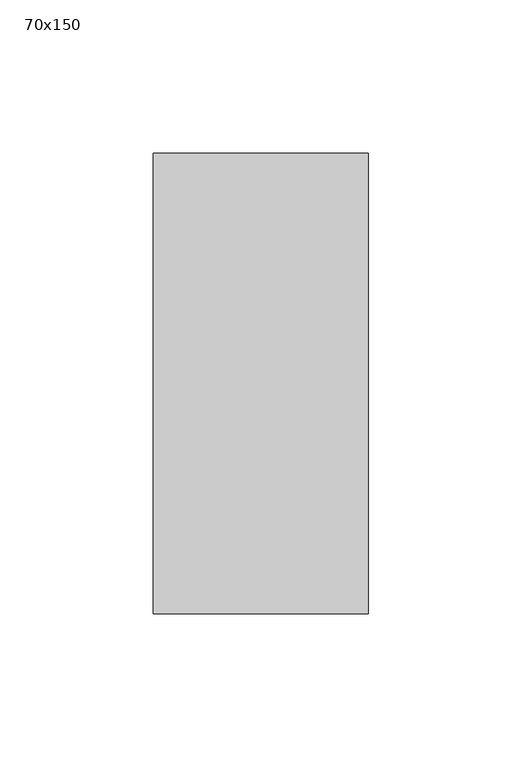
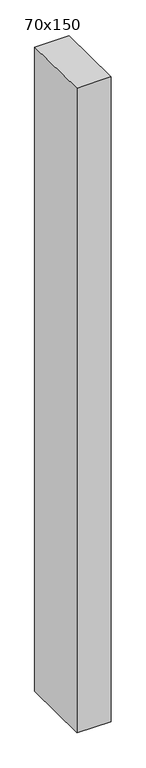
"""IFC4 building model written with IfcOpenShell, lengths in millimetres: member geometry, 長方形のマリオン : 70x150."""

from ifc_helpers import new_model, si_unit, frame, origin, place, context, project, spatial, polyline, outline, extrude, source, transform, mapped, element, save


def member_70x150_d2bbf5bb(model_context):
    return source(origin(), model_context, "Body", "SweptSolid", [
        extrude(outline(polyline([(-75.0, 0.977983), (75.0, -0.977983), (75.0, -1397.7180115), (-75.0, -1397.3194831), (-75.0, 0.977983)])), frame((-35.0, 0.0, 0.0), z_axis=(1.0, 0.0, 0.0), x_axis=(0.0, 1.0, 0.0)), (0.0, 0.0, 1.0), 70.0),
    ])


if __name__ == "__main__":
    model = new_model("IFC4")
    model_context = context("Model", 3, world=origin())
    ifc_project = project(units=[si_unit("LENGTHUNIT", "METRE", prefix="MILLI")], contexts=[model_context])
    site = spatial("IfcSite", under=ifc_project)
    building = spatial("IfcBuilding", under=site)
    placement = place(None, origin())
    member_70x150_shape = member_70x150_d2bbf5bb(model_context)
    element("IfcMember", 1, ObjectType="長方形のマリオン : 70x150", at=placement, inside=building, context=model_context, shape_type="MappedRepresentation", body=[
        mapped(member_70x150_shape, transform((0.0, 0.0, 0.0), x_axis=(1.0, 0.0, 0.0), y_axis=(0.0, 1.0, 0.0), z_axis=(0.0, 0.0, 1.0))),
    ])
    save(model, "model.ifc")
